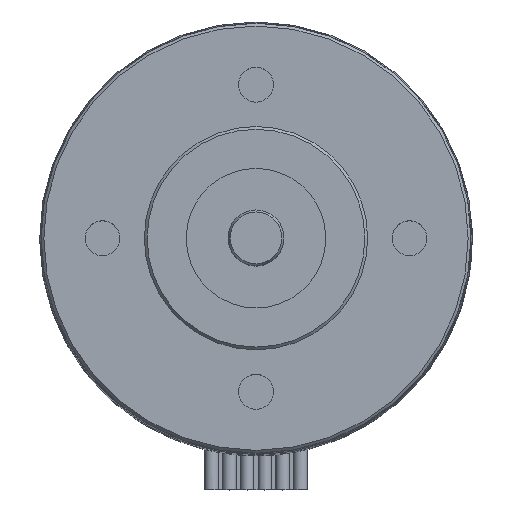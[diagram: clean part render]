
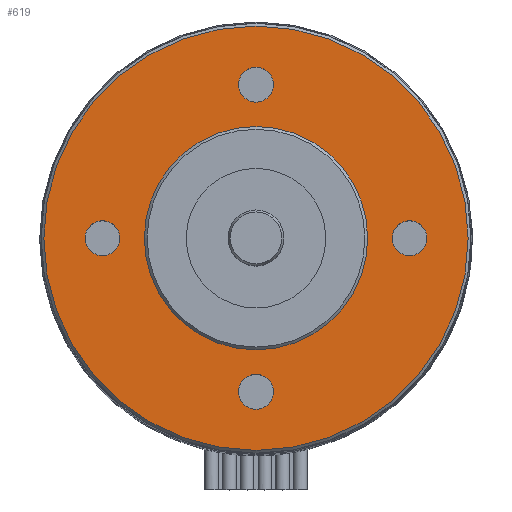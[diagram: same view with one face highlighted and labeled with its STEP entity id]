
A CAD part, top view. The second image highlights one B-rep face of the part: STEP entity #619.
In plain terms, the highlighted planar face has unit normal (0, 0, 1).
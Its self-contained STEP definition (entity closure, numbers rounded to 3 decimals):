
#525=FACE_BOUND('',#775,.T.);
#526=FACE_BOUND('',#776,.T.);
#527=FACE_BOUND('',#777,.T.);
#528=FACE_BOUND('',#778,.T.);
#529=FACE_BOUND('',#779,.T.);
#530=FACE_BOUND('',#780,.T.);
#619=ADVANCED_FACE('',(#525,#526,#527,#528,#529,#530),#683,.T.);
#683=PLANE('',#1655);
#775=EDGE_LOOP('',(#976));
#776=EDGE_LOOP('',(#977));
#777=EDGE_LOOP('',(#978));
#778=EDGE_LOOP('',(#979));
#779=EDGE_LOOP('',(#980));
#780=EDGE_LOOP('',(#981));
#875=CIRCLE('',#1648,8.);
#876=CIRCLE('',#1650,1.25);
#877=CIRCLE('',#1651,1.25);
#878=CIRCLE('',#1652,1.25);
#879=CIRCLE('',#1653,1.25);
#880=CIRCLE('',#1654,15.2);
#976=ORIENTED_EDGE('',*,*,#1372,.F.);
#977=ORIENTED_EDGE('',*,*,#1373,.F.);
#978=ORIENTED_EDGE('',*,*,#1374,.F.);
#979=ORIENTED_EDGE('',*,*,#1375,.F.);
#980=ORIENTED_EDGE('',*,*,#1376,.T.);
#981=ORIENTED_EDGE('',*,*,#1371,.T.);
#1258=VERTEX_POINT('',#2241);
#1259=VERTEX_POINT('',#2244);
#1260=VERTEX_POINT('',#2246);
#1261=VERTEX_POINT('',#2248);
#1262=VERTEX_POINT('',#2250);
#1263=VERTEX_POINT('',#2252);
#1371=EDGE_CURVE('',#1258,#1258,#875,.T.);
#1372=EDGE_CURVE('',#1259,#1259,#876,.T.);
#1373=EDGE_CURVE('',#1260,#1260,#877,.T.);
#1374=EDGE_CURVE('',#1261,#1261,#878,.T.);
#1375=EDGE_CURVE('',#1262,#1262,#879,.T.);
#1376=EDGE_CURVE('',#1263,#1263,#880,.T.);
#1648=AXIS2_PLACEMENT_3D('',#2240,#1853,#1854);
#1650=AXIS2_PLACEMENT_3D('',#2243,#1857,#1858);
#1651=AXIS2_PLACEMENT_3D('',#2245,#1859,#1860);
#1652=AXIS2_PLACEMENT_3D('',#2247,#1861,#1862);
#1653=AXIS2_PLACEMENT_3D('',#2249,#1863,#1864);
#1654=AXIS2_PLACEMENT_3D('',#2251,#1865,#1866);
#1655=AXIS2_PLACEMENT_3D('',#2253,#1867,#1868);
#1853=DIRECTION('',(0.,0.,-1.));
#1854=DIRECTION('',(1.,0.,0.));
#1857=DIRECTION('',(0.,0.,1.));
#1858=DIRECTION('',(1.,0.,0.));
#1859=DIRECTION('',(0.,0.,1.));
#1860=DIRECTION('',(1.,0.,0.));
#1861=DIRECTION('',(0.,0.,1.));
#1862=DIRECTION('',(1.,0.,0.));
#1863=DIRECTION('',(0.,0.,1.));
#1864=DIRECTION('',(1.,0.,0.));
#1865=DIRECTION('',(0.,0.,1.));
#1866=DIRECTION('',(1.,0.,0.));
#1867=DIRECTION('',(0.,0.,1.));
#1868=DIRECTION('',(1.,0.,0.));
#2240=CARTESIAN_POINT('',(0.,0.,0.));
#2241=CARTESIAN_POINT('',(8.,0.,0.));
#2243=CARTESIAN_POINT('',(11.,0.,0.));
#2244=CARTESIAN_POINT('',(12.25,0.,0.));
#2245=CARTESIAN_POINT('',(0.,-11.,0.));
#2246=CARTESIAN_POINT('',(1.25,-11.,0.));
#2247=CARTESIAN_POINT('',(-11.,0.,0.));
#2248=CARTESIAN_POINT('',(-9.75,0.,0.));
#2249=CARTESIAN_POINT('',(0.,11.,0.));
#2250=CARTESIAN_POINT('',(1.25,11.,0.));
#2251=CARTESIAN_POINT('',(0.,0.,0.));
#2252=CARTESIAN_POINT('',(15.2,0.,0.));
#2253=CARTESIAN_POINT('',(0.,0.,0.));
